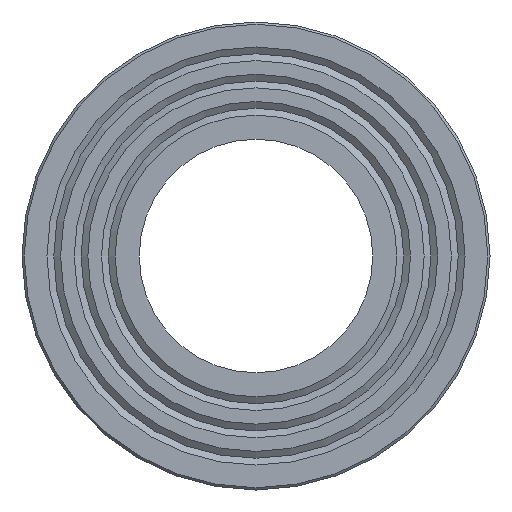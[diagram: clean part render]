
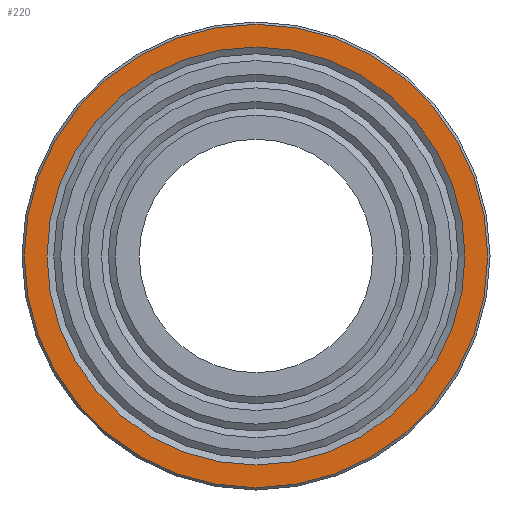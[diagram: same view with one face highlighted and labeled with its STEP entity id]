
A CAD part, left-side view. The second image highlights one B-rep face of the part: STEP entity #220.
In plain terms, the highlighted planar face has unit normal (-1, 0, 0).
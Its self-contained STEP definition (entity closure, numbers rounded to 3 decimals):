
#34=ORIENTED_EDGE('',*,*,#74,.F.);
#35=ORIENTED_EDGE('',*,*,#75,.T.);
#74=EDGE_CURVE('',#94,#94,#114,.T.);
#75=EDGE_CURVE('',#95,#95,#115,.F.);
#94=VERTEX_POINT('',#378);
#95=VERTEX_POINT('',#380);
#114=CIRCLE('',#254,46.);
#115=CIRCLE('',#255,51.);
#134=EDGE_LOOP('',(#34));
#135=EDGE_LOOP('',(#35));
#174=FACE_BOUND('',#134,.T.);
#175=FACE_BOUND('',#135,.T.);
#214=PLANE('',#253);
#220=ADVANCED_FACE('',(#174,#175),#214,.F.);
#253=AXIS2_PLACEMENT_3D('',#376,#295,#296);
#254=AXIS2_PLACEMENT_3D('',#377,#297,#298);
#255=AXIS2_PLACEMENT_3D('',#379,#299,#300);
#295=DIRECTION('',(1.,0.,0.));
#296=DIRECTION('',(0.,0.,-1.));
#297=DIRECTION('',(-1.,0.,0.));
#298=DIRECTION('',(0.,0.,1.));
#299=DIRECTION('',(1.,0.,0.));
#300=DIRECTION('',(0.,0.,-1.));
#376=CARTESIAN_POINT('',(0.,0.,51.5));
#377=CARTESIAN_POINT('',(0.,0.,0.));
#378=CARTESIAN_POINT('',(0.,0.,46.));
#379=CARTESIAN_POINT('',(0.,0.,0.));
#380=CARTESIAN_POINT('',(0.,0.,-51.));
